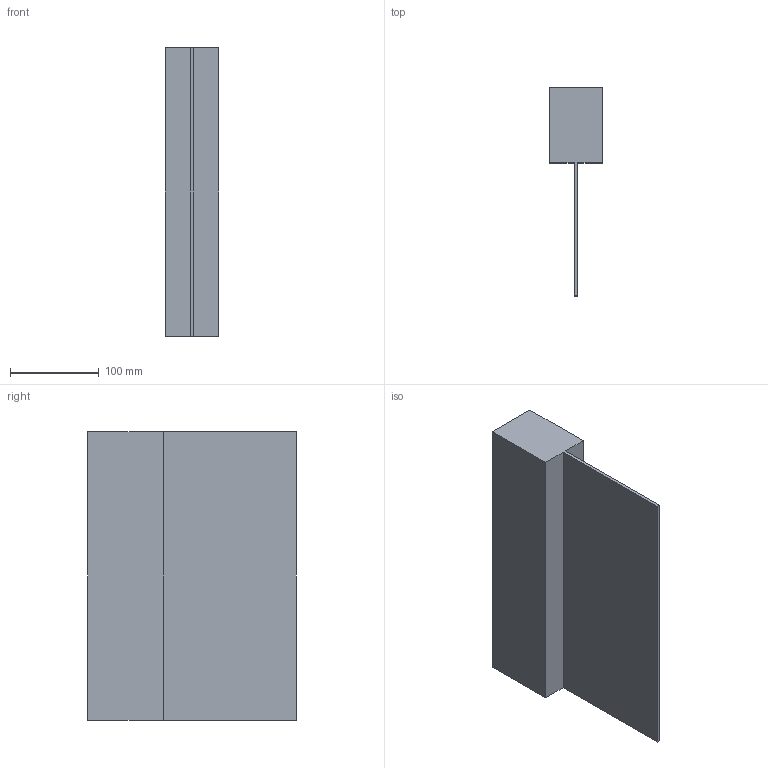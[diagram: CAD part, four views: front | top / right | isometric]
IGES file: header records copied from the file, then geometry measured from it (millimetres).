
Start section: SolidWorks IGES file using analytic representation for surfaces
Global section: file name: C:\Users\joaom\Desktop\02_3D.2D\01_2020\04_Safe\03_LS\01_LS\DWG_3D_LS_Saliente.IGS; native system: SolidWorks 2020; preprocessor: SolidWorks 2020; author: joaom; date: 201109.190650; units: millimetre
Bounding box: 60 x 235 x 325 mm (x, y, z)
Surface area: 203150 mm2 (no closed solid volume)
Topology: 0 solids, 0 shells, 18 faces, 753 edges, 753 vertices
Faces by surface type: bspline 18
